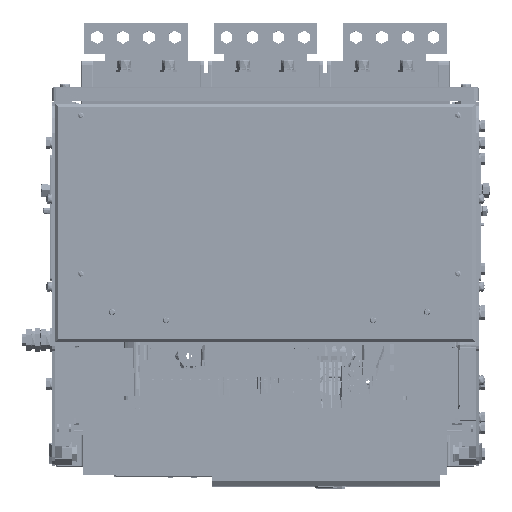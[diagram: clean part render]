
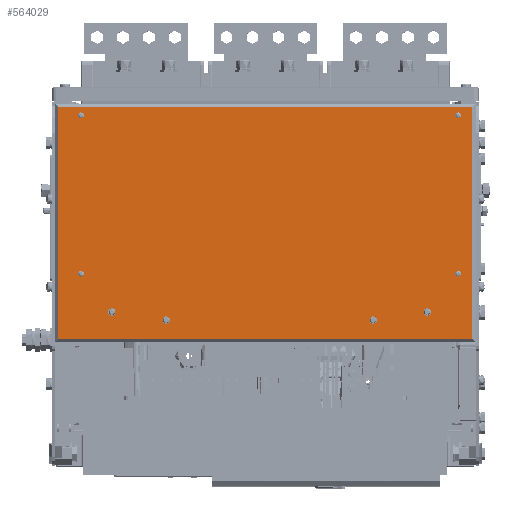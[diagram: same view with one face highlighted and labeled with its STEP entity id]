
A CAD part, top view. The second image highlights one B-rep face of the part: STEP entity #564029.
In plain terms, the highlighted planar face has unit normal (0, 0, 1) as drawn and (-1, 0, 0) by its records, which use the part's own axes.
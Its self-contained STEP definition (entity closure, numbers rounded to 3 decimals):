
#560199=CARTESIAN_POINT('',(-33.742,-340.064,-83.));
#560222=DIRECTION('',(0.,0.,-1.));
#560223=VECTOR('',#560222,224.);
#560224=CARTESIAN_POINT('',(-33.742,-340.064,-83.));
#560225=LINE('',#560224,#560223);
#560226=DIRECTION('',(0.,1.,0.));
#560227=VECTOR('',#560226,400.);
#560228=CARTESIAN_POINT('',(-33.742,-340.064,-307.));
#560229=LINE('',#560228,#560227);
#560230=DIRECTION('',(0.,-1.,0.));
#560231=VECTOR('',#560230,400.);
#560232=CARTESIAN_POINT('',(-33.742,59.936,-83.));
#560233=LINE('',#560232,#560231);
#560234=CARTESIAN_POINT('',(-33.742,-318.314,-299.));
#560235=DIRECTION('',(-1.,0.,0.));
#560236=DIRECTION('',(0.,0.,1.));
#560237=AXIS2_PLACEMENT_3D('',#560234,#560235,#560236);
#560239=CARTESIAN_POINT('',(-33.742,-318.314,-299.));
#560240=DIRECTION('',(-1.,0.,0.));
#560241=DIRECTION('',(0.,0.,-1.));
#560242=AXIS2_PLACEMENT_3D('',#560239,#560240,#560241);
#560244=CARTESIAN_POINT('',(-33.742,-318.314,-146.));
#560245=DIRECTION('',(-1.,0.,0.));
#560246=DIRECTION('',(0.,0.,1.));
#560247=AXIS2_PLACEMENT_3D('',#560244,#560245,#560246);
#560249=CARTESIAN_POINT('',(-33.742,-318.314,-146.));
#560250=DIRECTION('',(-1.,0.,0.));
#560251=DIRECTION('',(0.,0.,-1.));
#560252=AXIS2_PLACEMENT_3D('',#560249,#560250,#560251);
#560254=CARTESIAN_POINT('',(-33.742,16.186,-109.));
#560255=DIRECTION('',(-1.,0.,0.));
#560256=DIRECTION('',(0.,0.,-1.));
#560257=AXIS2_PLACEMENT_3D('',#560254,#560255,#560256);
#560259=CARTESIAN_POINT('',(-33.742,16.186,-109.));
#560260=DIRECTION('',(-1.,0.,0.));
#560261=DIRECTION('',(0.,0.,1.));
#560262=AXIS2_PLACEMENT_3D('',#560259,#560260,#560261);
#560264=CARTESIAN_POINT('',(-33.742,46.186,-299.));
#560265=DIRECTION('',(-1.,0.,0.));
#560266=DIRECTION('',(0.,0.,-1.));
#560267=AXIS2_PLACEMENT_3D('',#560264,#560265,#560266);
#560269=CARTESIAN_POINT('',(-33.742,46.186,-299.));
#560270=DIRECTION('',(-1.,0.,0.));
#560271=DIRECTION('',(0.,0.,1.));
#560272=AXIS2_PLACEMENT_3D('',#560269,#560270,#560271);
#560274=CARTESIAN_POINT('',(-33.742,46.186,-146.));
#560275=DIRECTION('',(-1.,0.,0.));
#560276=DIRECTION('',(0.,0.,-1.));
#560277=AXIS2_PLACEMENT_3D('',#560274,#560275,#560276);
#560279=CARTESIAN_POINT('',(-33.742,46.186,-146.));
#560280=DIRECTION('',(-1.,0.,0.));
#560281=DIRECTION('',(0.,0.,1.));
#560282=AXIS2_PLACEMENT_3D('',#560279,#560280,#560281);
#560284=CARTESIAN_POINT('',(-33.742,-36.064,-101.1));
#560285=DIRECTION('',(-1.,0.,0.));
#560286=DIRECTION('',(0.,0.,-1.));
#560287=AXIS2_PLACEMENT_3D('',#560284,#560285,#560286);
#560289=CARTESIAN_POINT('',(-33.742,-36.064,-101.1));
#560290=DIRECTION('',(-1.,0.,0.));
#560291=DIRECTION('',(0.,0.,1.));
#560292=AXIS2_PLACEMENT_3D('',#560289,#560290,#560291);
#560294=CARTESIAN_POINT('',(-33.742,-236.064,-101.1));
#560295=DIRECTION('',(-1.,0.,0.));
#560296=DIRECTION('',(0.,0.,-1.));
#560297=AXIS2_PLACEMENT_3D('',#560294,#560295,#560296);
#560299=CARTESIAN_POINT('',(-33.742,-236.064,-101.1));
#560300=DIRECTION('',(-1.,0.,0.));
#560301=DIRECTION('',(0.,0.,1.));
#560302=AXIS2_PLACEMENT_3D('',#560299,#560300,#560301);
#560304=CARTESIAN_POINT('',(-33.742,-288.314,-109.));
#560305=DIRECTION('',(-1.,0.,0.));
#560306=DIRECTION('',(0.,0.,-1.));
#560307=AXIS2_PLACEMENT_3D('',#560304,#560305,#560306);
#560309=CARTESIAN_POINT('',(-33.742,-288.314,-109.));
#560310=DIRECTION('',(-1.,0.,0.));
#560311=DIRECTION('',(0.,0.,1.));
#560312=AXIS2_PLACEMENT_3D('',#560309,#560310,#560311);
#560322=CARTESIAN_POINT('',(-33.742,-340.064,-307.));
#560338=DIRECTION('',(0.,0.,-1.));
#560339=VECTOR('',#560338,224.);
#560340=CARTESIAN_POINT('',(-33.742,59.936,-83.));
#560341=LINE('',#560340,#560339);
#562679=CARTESIAN_POINT('',(-33.742,-236.064,-97.2));
#562680=VERTEX_POINT('',#562679);
#562681=CARTESIAN_POINT('',(-33.742,-236.064,-105.));
#562682=VERTEX_POINT('',#562681);
#562687=CARTESIAN_POINT('',(-33.742,59.936,-83.));
#562688=CARTESIAN_POINT('',(-33.742,59.936,-307.));
#562689=VERTEX_POINT('',#562687);
#562690=VERTEX_POINT('',#562688);
#562691=CARTESIAN_POINT('',(-33.742,16.186,-112.9));
#562692=CARTESIAN_POINT('',(-33.742,16.186,-105.1));
#562693=VERTEX_POINT('',#562691);
#562694=VERTEX_POINT('',#562692);
#562695=CARTESIAN_POINT('',(-33.742,-318.314,-302.));
#562696=CARTESIAN_POINT('',(-33.742,-318.314,-296.));
#562697=VERTEX_POINT('',#562695);
#562698=VERTEX_POINT('',#562696);
#562699=CARTESIAN_POINT('',(-33.742,-36.064,-105.));
#562700=CARTESIAN_POINT('',(-33.742,-36.064,-97.2));
#562701=VERTEX_POINT('',#562699);
#562702=VERTEX_POINT('',#562700);
#562703=CARTESIAN_POINT('',(-33.742,46.186,-143.));
#562704=CARTESIAN_POINT('',(-33.742,46.186,-149.));
#562705=VERTEX_POINT('',#562703);
#562706=VERTEX_POINT('',#562704);
#562707=CARTESIAN_POINT('',(-33.742,-288.314,-112.9));
#562708=CARTESIAN_POINT('',(-33.742,-288.314,-105.1));
#562709=VERTEX_POINT('',#562707);
#562710=VERTEX_POINT('',#562708);
#563112=CARTESIAN_POINT('',(-33.742,-318.314,-149.));
#563113=VERTEX_POINT('',#563112);
#563114=CARTESIAN_POINT('',(-33.742,-318.314,-143.));
#563115=VERTEX_POINT('',#563114);
#563231=CARTESIAN_POINT('',(-33.742,46.186,-296.));
#563232=VERTEX_POINT('',#563231);
#563233=CARTESIAN_POINT('',(-33.742,46.186,-302.));
#563234=VERTEX_POINT('',#563233);
#563421=VERTEX_POINT('',#560199);
#563425=VERTEX_POINT('',#560322);
#563968=CARTESIAN_POINT('',(-33.742,-282.064,-200.));
#563969=DIRECTION('',(1.,0.,0.));
#563970=DIRECTION('',(0.,0.,-1.));
#563971=AXIS2_PLACEMENT_3D('',#563968,#563969,#563970);
#563972=PLANE('',#563971);
#563973=ORIENTED_EDGE('',*,*,#563948,.T.);
#563975=ORIENTED_EDGE('',*,*,#563974,.T.);
#563977=ORIENTED_EDGE('',*,*,#563976,.F.);
#563978=ORIENTED_EDGE('',*,*,#563959,.T.);
#563979=EDGE_LOOP('',(#563973,#563975,#563977,#563978));
#563980=FACE_OUTER_BOUND('',#563979,.F.);
#563982=ORIENTED_EDGE('',*,*,#563981,.T.);
#563984=ORIENTED_EDGE('',*,*,#563983,.T.);
#563985=EDGE_LOOP('',(#563982,#563984));
#563986=FACE_BOUND('',#563985,.F.);
#563988=ORIENTED_EDGE('',*,*,#563987,.T.);
#563990=ORIENTED_EDGE('',*,*,#563989,.T.);
#563991=EDGE_LOOP('',(#563988,#563990));
#563992=FACE_BOUND('',#563991,.F.);
#563994=ORIENTED_EDGE('',*,*,#563993,.T.);
#563996=ORIENTED_EDGE('',*,*,#563995,.T.);
#563997=EDGE_LOOP('',(#563994,#563996));
#563998=FACE_BOUND('',#563997,.F.);
#564000=ORIENTED_EDGE('',*,*,#563999,.T.);
#564002=ORIENTED_EDGE('',*,*,#564001,.T.);
#564003=EDGE_LOOP('',(#564000,#564002));
#564004=FACE_BOUND('',#564003,.F.);
#564006=ORIENTED_EDGE('',*,*,#564005,.T.);
#564008=ORIENTED_EDGE('',*,*,#564007,.T.);
#564009=EDGE_LOOP('',(#564006,#564008));
#564010=FACE_BOUND('',#564009,.F.);
#564012=ORIENTED_EDGE('',*,*,#564011,.T.);
#564014=ORIENTED_EDGE('',*,*,#564013,.T.);
#564015=EDGE_LOOP('',(#564012,#564014));
#564016=FACE_BOUND('',#564015,.F.);
#564018=ORIENTED_EDGE('',*,*,#564017,.T.);
#564020=ORIENTED_EDGE('',*,*,#564019,.T.);
#564021=EDGE_LOOP('',(#564018,#564020));
#564022=FACE_BOUND('',#564021,.F.);
#564024=ORIENTED_EDGE('',*,*,#564023,.T.);
#564026=ORIENTED_EDGE('',*,*,#564025,.T.);
#564027=EDGE_LOOP('',(#564024,#564026));
#564028=FACE_BOUND('',#564027,.F.);
#564029=ADVANCED_FACE('',(#563980,#563986,#563992,#563998,#564004,#564010,
#564016,#564022,#564028),#563972,.F.);
#560238=CIRCLE('',#560237,3.);
#560243=CIRCLE('',#560242,3.);
#560248=CIRCLE('',#560247,3.);
#560253=CIRCLE('',#560252,3.);
#560258=CIRCLE('',#560257,3.9);
#560263=CIRCLE('',#560262,3.9);
#560268=CIRCLE('',#560267,3.);
#560273=CIRCLE('',#560272,3.);
#560278=CIRCLE('',#560277,3.);
#560283=CIRCLE('',#560282,3.);
#560288=CIRCLE('',#560287,3.9);
#560293=CIRCLE('',#560292,3.9);
#560298=CIRCLE('',#560297,3.9);
#560303=CIRCLE('',#560302,3.9);
#560308=CIRCLE('',#560307,3.9);
#560313=CIRCLE('',#560312,3.9);
#563948=EDGE_CURVE('',#563421,#563425,#560225,.T.);
#563959=EDGE_CURVE('',#562689,#563421,#560233,.T.);
#563974=EDGE_CURVE('',#563425,#562690,#560229,.T.);
#563976=EDGE_CURVE('',#562689,#562690,#560341,.T.);
#563981=EDGE_CURVE('',#562698,#562697,#560238,.T.);
#563983=EDGE_CURVE('',#562697,#562698,#560243,.T.);
#563987=EDGE_CURVE('',#563115,#563113,#560248,.T.);
#563989=EDGE_CURVE('',#563113,#563115,#560253,.T.);
#563993=EDGE_CURVE('',#562693,#562694,#560258,.T.);
#563995=EDGE_CURVE('',#562694,#562693,#560263,.T.);
#563999=EDGE_CURVE('',#563234,#563232,#560268,.T.);
#564001=EDGE_CURVE('',#563232,#563234,#560273,.T.);
#564005=EDGE_CURVE('',#562706,#562705,#560278,.T.);
#564007=EDGE_CURVE('',#562705,#562706,#560283,.T.);
#564011=EDGE_CURVE('',#562701,#562702,#560288,.T.);
#564013=EDGE_CURVE('',#562702,#562701,#560293,.T.);
#564017=EDGE_CURVE('',#562682,#562680,#560298,.T.);
#564019=EDGE_CURVE('',#562680,#562682,#560303,.T.);
#564023=EDGE_CURVE('',#562709,#562710,#560308,.T.);
#564025=EDGE_CURVE('',#562710,#562709,#560313,.T.);
